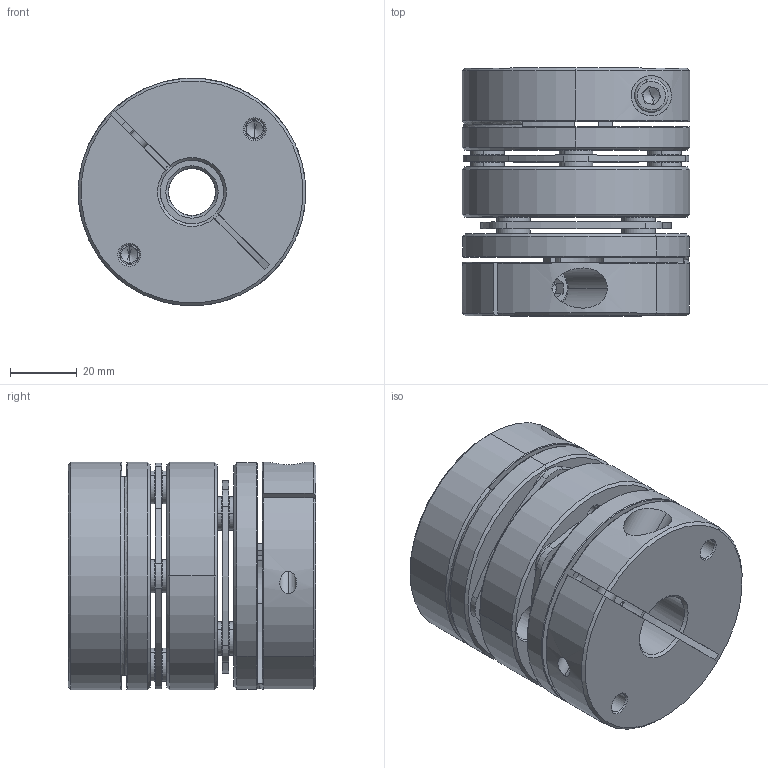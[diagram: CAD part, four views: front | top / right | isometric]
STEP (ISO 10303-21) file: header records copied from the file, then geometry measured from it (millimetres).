
FILE_DESCRIPTION (( 'STEP AP203' ), '1' );
FILE_NAME ('LD2-D68-14-19.STEP', '2021-10-26T08:11:54', ( '' ), ( '' ), 'SwSTEP 2.0', 'SolidWorks 2018', '' );
FILE_SCHEMA (( 'CONFIG_CONTROL_DESIGN' ));
Length unit declared in the file: millimetre
Products named in the file (2): LD2-D68-14-19; 錨璃102^LD2-D68
Assembly tree (1 placements, depth 2):
  LD2-D68-14-19
    錨璃102^LD2-D68
Bounding box: 68 x 74 x 68 mm (x, y, z)
Volume: 194068.9 mm3; surface area: 65054.2 mm2
Topology: 1 solids, 27 shells, 738 faces, 1724 edges, 1050 vertices
Faces by surface type: cylinder 258, cone 226, plane 224, torus 30
Entity records: 21692 total; most frequent: DIRECTION 4032, CARTESIAN_POINT 3958, ORIENTED_EDGE 3400, EDGE_CURVE 1700, AXIS2_PLACEMENT_3D 1636, VERTEX_POINT 1050, CIRCLE 894, EDGE_LOOP 874
